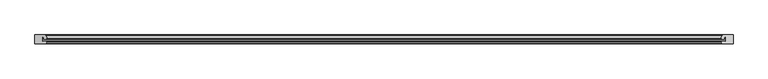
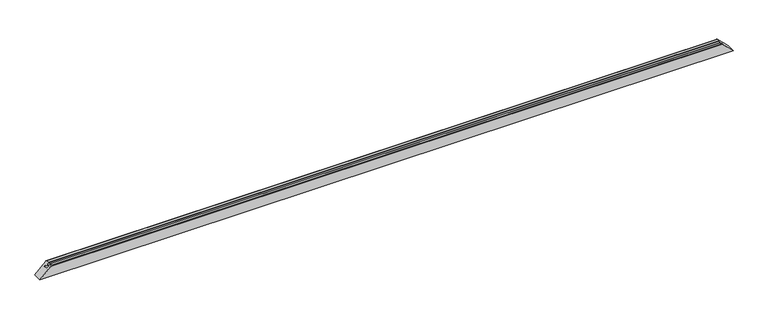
"""IFC4 building model written with IfcOpenShell, lengths in millimetres: proxy geometry, Weiku - Montante - Caixilho fixo 02.2.01.005 : Weiku - Montante - Caixilho fixo 02.2.01.005."""

from ifc_helpers import new_model, si_unit, frame, origin, place, context, project, spatial, ellipse_curve, source, transform, mapped, element, save
from ifc_brep_helpers import plane_surface, cylinder_surface, advanced_brep


def generic_models_7542fc55(model_context):
    return source(origin(), model_context, "Body", "AdvancedBrep", [
        advanced_brep(
        [(-1930.118227, -38.5070552, 66.881773), (-1930.8909676, -37.5, 66.1090324), (-1951.0, -37.5, 46.0), (-1951.0, -12.5, 46.0), (-1945.0009154, -12.5, 51.9990846), (-1945.0009154, -23.5, 51.9990846), (-1930.9865015, -23.5, 66.0134985), (-1929.9998537, -22.3371317, 67.0001463), (-1933.5489094, -0.8371317, 63.4510906), (-1934.5355572, 0.0, 62.4644428), (-1997.0, 0.0, 0.0), (-1997.0, -50.0, 0.0), (-1935.4997332, -50.0, 61.5002668), (-1932.6019557, -47.7764571, 64.3980443), (1932.6019557, -47.7764571, 64.3980443), (1935.4997332, -50.0, 61.5002668), (1997.0, -50.0, 0.0), (1997.0, 0.0, 0.0), (1934.5355572, 0.0, 62.4644428), (1933.5489094, -0.8371317, 63.4510906), (1929.9998537, -22.3371317, 67.0001463), (1930.9865015, -23.5, 66.0134985), (1945.0009154, -23.5, 51.9990846), (1945.0009154, -12.5, 51.9990846), (1951.0, -12.5, 46.0), (1951.0, -37.5, 46.0), (1930.8909676, -37.5, 66.1090324), (1930.118227, -38.5070552, 66.881773)],
        [
            (0, 1, ellipse_curve(frame((-1930.8909676, -38.3, 66.1090324), z_axis=(-0.7071067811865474, 0.0, 0.7071067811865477), x_axis=(-0.7071067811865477, 0.0, -0.7071067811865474)), 1.1313708, 0.8)),
            (1, 2),
            (2, 3),
            (3, 4),
            (4, 5),
            (5, 6),
            (6, 7, ellipse_curve(frame((-1930.9865015, -22.5, 66.0134985), z_axis=(-0.7071067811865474, 0.0, 0.7071067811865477), x_axis=(-0.7071067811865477, 0.0, -0.7071067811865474)), 1.4142136, 1.0)),
            (7, 8),
            (8, 9, ellipse_curve(frame((-1934.5355572, -1.0, 62.4644428), z_axis=(-0.7071067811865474, 0.0, 0.7071067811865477), x_axis=(-0.7071067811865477, 0.0, -0.7071067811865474)), 1.4142136, 1.0)),
            (9, 10),
            (10, 11),
            (11, 12),
            (12, 13, ellipse_curve(frame((-1935.4997332, -47.0, 61.5002668), z_axis=(-0.7071067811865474, 0.0, 0.7071067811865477), x_axis=(-0.7071067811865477, 0.0, -0.7071067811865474)), 4.2426407, 3.0)),
            (13, 0),
            (14, 15, ellipse_curve(frame((1935.4997332, -47.0, 61.5002668), z_axis=(0.7071067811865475, 0.0, 0.7071067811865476), x_axis=(-0.7071067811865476, 0.0, 0.7071067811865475)), 4.2426407, 3.0)),
            (15, 16),
            (16, 17),
            (17, 18),
            (18, 19, ellipse_curve(frame((1934.5355572, -1.0, 62.4644428), z_axis=(0.7071067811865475, 0.0, 0.7071067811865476), x_axis=(-0.7071067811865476, 0.0, 0.7071067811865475)), 1.4142136, 1.0)),
            (19, 20),
            (20, 21, ellipse_curve(frame((1930.9865015, -22.5, 66.0134985), z_axis=(0.7071067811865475, 0.0, 0.7071067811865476), x_axis=(-0.7071067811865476, 0.0, 0.7071067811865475)), 1.4142136, 1.0)),
            (21, 22),
            (22, 23),
            (23, 24),
            (24, 25),
            (25, 26),
            (26, 27, ellipse_curve(frame((1930.8909676, -38.3, 66.1090324), z_axis=(0.7071067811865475, 0.0, 0.7071067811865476), x_axis=(-0.7071067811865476, 0.0, 0.7071067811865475)), 1.1313708, 0.8)),
            (27, 14),
            (13, 14),
            (27, 0),
            (12, 15),
            (11, 16),
            (10, 17),
            (9, 18),
            (8, 19),
            (7, 20),
            (6, 21),
            (5, 22),
            (4, 23),
            (3, 24),
            (2, 25),
            (1, 26),
        ],
        [
            plane_surface(frame((-2067.0, 15.0, -70.0), z_axis=(-0.7071067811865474, 0.0, 0.7071067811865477), x_axis=(0.0, -1.0, 0.0))),
            plane_surface(frame((1927.0, 15.0, 70.0), z_axis=(0.7071067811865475, 0.0, 0.7071067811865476), x_axis=(0.0, -1.0, 0.0))),
            plane_surface(frame((-1997.0, -38.5070552, 66.881773), z_axis=(0.0, -0.2588190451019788, 0.9659258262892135), x_axis=(1.0, 0.0, 0.0))),
            cylinder_surface(frame((-1997.0, -47.0, 61.5002668), z_axis=(-1.0, 0.0, 0.0), x_axis=(0.0, 1.0, 0.0)), 3.0),
            plane_surface(frame((-1997.0, -50.0, 61.5002668), z_axis=(0.0, -1.0, 0.0), x_axis=(1.0, 0.0, 0.0))),
            plane_surface(frame((-1997.0, -50.0, 0.0), z_axis=(0.0, 0.0, -1.0), x_axis=(1.0, 0.0, 0.0))),
            plane_surface(frame((-1997.0, 0.0, 0.0), z_axis=(0.0, 1.0, 0.0), x_axis=(1.0, 0.0, 0.0))),
            cylinder_surface(frame((-1997.0, -1.0, 62.4644428), z_axis=(-1.0, 0.0, 0.0), x_axis=(0.0, -1.0, 0.0)), 1.0),
            plane_surface(frame((-1997.0, -0.8371317, 63.4510906), z_axis=(0.0, 0.16286828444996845, 0.9866478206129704), x_axis=(1.0, 0.0, 0.0))),
            cylinder_surface(frame((-1997.0, -22.5, 66.0134985), z_axis=(-1.0, 0.0, 0.0), x_axis=(0.0, -1.0, 0.0)), 1.0),
            plane_surface(frame((-1997.0, -23.5, 66.0134985), z_axis=(0.0, -1.0, 0.0), x_axis=(1.0, 0.0, 0.0))),
            plane_surface(frame((-1997.0, -23.5, 51.9990846), z_axis=(0.0, 0.0, -1.0), x_axis=(1.0, 0.0, 0.0))),
            plane_surface(frame((-1997.0, -12.5, 51.9990846), z_axis=(0.0, -1.0, 0.0), x_axis=(1.0, 0.0, 0.0))),
            plane_surface(frame((-1997.0, -12.5, 46.0), z_axis=(0.0, 0.0, 1.0), x_axis=(1.0, 0.0, 0.0))),
            plane_surface(frame((-1997.0, -37.5, 46.0), z_axis=(0.0, 1.0, 0.0), x_axis=(1.0, 0.0, 0.0))),
            cylinder_surface(frame((-1997.0, -38.3, 66.1090324), z_axis=(-1.0, 0.0, 0.0), x_axis=(0.0, 1.0, 0.0)), 0.8),
        ],
        [
            (0, [[1, 2, 3, 4, 5, 6, 7, 8, 9, 10, 11, 12, 13, 14]]),
            (1, [[15, 16, 17, 18, 19, 20, 21, 22, 23, 24, 25, 26, 27, 28]]),
            (2, [[29, -28, 30, -14]]),
            (3, [[31, -15, -29, -13]]),
            (4, [[-16, -31, -12, 32]]),
            (5, [[-11, 33, -17, -32]]),
            (6, [[-10, 34, -18, -33]]),
            (7, [[35, -19, -34, -9]]),
            (8, [[36, -20, -35, -8]]),
            (9, [[37, -21, -36, -7]]),
            (10, [[38, -22, -37, -6]]),
            (11, [[39, -23, -38, -5]]),
            (12, [[40, -24, -39, -4]]),
            (13, [[41, -25, -40, -3]]),
            (14, [[42, -26, -41, -2]]),
            (15, [[-30, -27, -42, -1]]),
        ],
    ),
    ])


if __name__ == "__main__":
    model = new_model("IFC4")
    model_context = context("Model", 3, world=origin())
    ifc_project = project(units=[si_unit("LENGTHUNIT", "METRE", prefix="MILLI")], contexts=[model_context])
    site = spatial("IfcSite", under=ifc_project)
    building = spatial("IfcBuilding", under=site)
    placement = place(None, origin())
    generic_models_shape = generic_models_7542fc55(model_context)
    element("IfcBuildingElementProxy", 1, Name="Weiku - Montante - Caixilho fixo 02.2.01.005 : Weiku - Montante - Caixilho fixo 02.2.01.005", ObjectType="Weiku - Montante - Caixilho fixo 02.2.01.005 : Weiku - Montante - Caixilho fixo 02.2.01.005", at=placement, inside=building, context=model_context, shape_type="MappedRepresentation", body=[
        mapped(generic_models_shape, transform((0.0, 0.0, 0.0), x_axis=(1.0, 0.0, 0.0), y_axis=(0.0, 1.0, 0.0), z_axis=(0.0, 0.0, 1.0))),
    ])
    save(model, "model.ifc")
